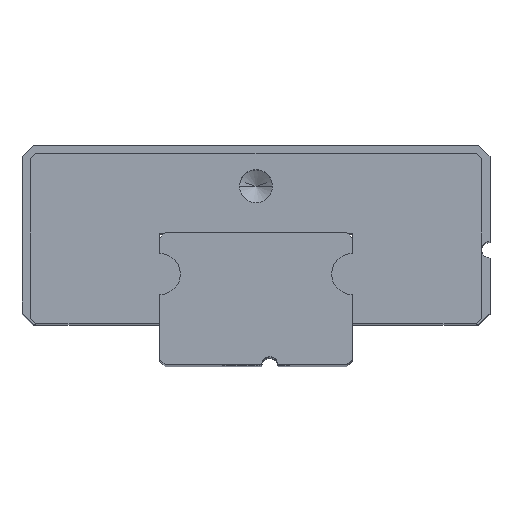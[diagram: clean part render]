
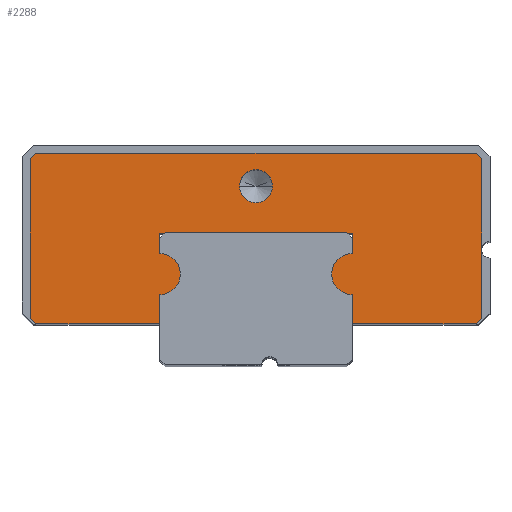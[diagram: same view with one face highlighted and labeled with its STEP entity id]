
A CAD part, top view. The second image highlights one B-rep face of the part: STEP entity #2288.
In plain terms, the highlighted planar face has unit normal (0, 0, 1).
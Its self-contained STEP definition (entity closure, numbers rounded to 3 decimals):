
#1339=CARTESIAN_POINT('',(3.5,3.3,15.4));
#1340=DIRECTION('',(0.,0.,-1.));
#1341=DIRECTION('',(0.,-1.,0.));
#1342=AXIS2_PLACEMENT_3D('',#1339,#1340,#1341);
#1344=CARTESIAN_POINT('',(3.5,3.3,15.4));
#1345=DIRECTION('',(0.,0.,-1.));
#1346=DIRECTION('',(-1.,0.,0.));
#1347=AXIS2_PLACEMENT_3D('',#1344,#1345,#1346);
#1349=CARTESIAN_POINT('',(-3.5,3.3,15.4));
#1350=DIRECTION('',(0.,0.,-1.));
#1351=DIRECTION('',(0.,1.,0.));
#1352=AXIS2_PLACEMENT_3D('',#1349,#1350,#1351);
#1354=CARTESIAN_POINT('',(-3.5,3.3,15.4));
#1355=DIRECTION('',(0.,0.,-1.));
#1356=DIRECTION('',(1.,0.,0.));
#1357=AXIS2_PLACEMENT_3D('',#1354,#1355,#1356);
#1359=DIRECTION('',(-1.,0.,0.));
#1360=VECTOR('',#1359,4.5);
#1361=CARTESIAN_POINT('',(-3.5,1.5,15.4));
#1362=LINE('',#1361,#1360);
#1363=DIRECTION('',(-0.707,0.707,0.));
#1364=VECTOR('',#1363,0.283);
#1365=CARTESIAN_POINT('',(-8.,1.5,15.4));
#1366=LINE('',#1365,#1364);
#1367=DIRECTION('',(0.,1.,0.));
#1368=VECTOR('',#1367,5.8);
#1369=CARTESIAN_POINT('',(-8.2,1.7,15.4));
#1370=LINE('',#1369,#1368);
#1371=DIRECTION('',(0.707,0.707,0.));
#1372=VECTOR('',#1371,0.283);
#1373=CARTESIAN_POINT('',(-8.2,7.5,15.4));
#1374=LINE('',#1373,#1372);
#1375=DIRECTION('',(1.,0.,0.));
#1376=VECTOR('',#1375,16.);
#1377=CARTESIAN_POINT('',(-8.,7.7,15.4));
#1378=LINE('',#1377,#1376);
#1379=DIRECTION('',(0.707,-0.707,0.));
#1380=VECTOR('',#1379,0.283);
#1381=CARTESIAN_POINT('',(8.,7.7,15.4));
#1382=LINE('',#1381,#1380);
#1383=DIRECTION('',(-0.707,-0.707,0.));
#1384=VECTOR('',#1383,0.283);
#1385=CARTESIAN_POINT('',(8.2,1.7,15.4));
#1386=LINE('',#1385,#1384);
#1387=DIRECTION('',(-1.,0.,0.));
#1388=VECTOR('',#1387,4.5);
#1389=CARTESIAN_POINT('',(8.,1.5,15.4));
#1390=LINE('',#1389,#1388);
#1391=CARTESIAN_POINT('',(0.,6.5,15.4));
#1392=DIRECTION('',(0.,0.,1.));
#1393=DIRECTION('',(1.,0.,0.));
#1394=AXIS2_PLACEMENT_3D('',#1391,#1392,#1393);
#1396=CARTESIAN_POINT('',(0.,6.5,15.4));
#1397=DIRECTION('',(0.,0.,1.));
#1398=DIRECTION('',(-1.,0.,0.));
#1399=AXIS2_PLACEMENT_3D('',#1396,#1397,#1398);
#1499=DIRECTION('',(0.,1.,0.));
#1500=VECTOR('',#1499,1.05);
#1501=CARTESIAN_POINT('',(-3.5,1.5,15.4));
#1502=LINE('',#1501,#1500);
#1742=DIRECTION('',(0.,-1.,0.));
#1743=VECTOR('',#1742,1.05);
#1744=CARTESIAN_POINT('',(3.5,2.55,15.4));
#1745=LINE('',#1744,#1743);
#1758=DIRECTION('',(0.,1.,0.));
#1759=VECTOR('',#1758,5.8);
#1760=CARTESIAN_POINT('',(8.2,1.7,15.4));
#1761=LINE('',#1760,#1759);
#1951=DIRECTION('',(0.,1.,0.));
#1952=VECTOR('',#1951,0.75);
#1953=CARTESIAN_POINT('',(-3.5,4.05,15.4));
#1954=LINE('',#1953,#1952);
#1959=DIRECTION('',(1.,0.,0.));
#1960=VECTOR('',#1959,7.);
#1961=CARTESIAN_POINT('',(-3.5,4.8,15.4));
#1962=LINE('',#1961,#1960);
#1967=DIRECTION('',(0.,-1.,0.));
#1968=VECTOR('',#1967,0.75);
#1969=CARTESIAN_POINT('',(3.5,4.8,15.4));
#1970=LINE('',#1969,#1968);
#2023=CARTESIAN_POINT('',(-3.5,4.05,15.4));
#2024=CARTESIAN_POINT('',(-2.75,3.3,15.4));
#2025=VERTEX_POINT('',#2023);
#2026=VERTEX_POINT('',#2024);
#2027=CARTESIAN_POINT('',(-3.5,2.55,15.4));
#2028=VERTEX_POINT('',#2027);
#2029=CARTESIAN_POINT('',(-3.5,1.5,15.4));
#2030=VERTEX_POINT('',#2029);
#2031=CARTESIAN_POINT('',(-8.,1.5,15.4));
#2032=VERTEX_POINT('',#2031);
#2033=CARTESIAN_POINT('',(-8.2,1.7,15.4));
#2034=VERTEX_POINT('',#2033);
#2035=CARTESIAN_POINT('',(-8.2,7.5,15.4));
#2036=VERTEX_POINT('',#2035);
#2037=CARTESIAN_POINT('',(-8.,7.7,15.4));
#2038=VERTEX_POINT('',#2037);
#2039=CARTESIAN_POINT('',(8.,7.7,15.4));
#2040=VERTEX_POINT('',#2039);
#2041=CARTESIAN_POINT('',(8.2,7.5,15.4));
#2042=VERTEX_POINT('',#2041);
#2043=CARTESIAN_POINT('',(8.2,1.7,15.4));
#2044=VERTEX_POINT('',#2043);
#2045=CARTESIAN_POINT('',(8.,1.5,15.4));
#2046=VERTEX_POINT('',#2045);
#2047=CARTESIAN_POINT('',(3.5,1.5,15.4));
#2048=VERTEX_POINT('',#2047);
#2049=CARTESIAN_POINT('',(3.5,2.55,15.4));
#2050=VERTEX_POINT('',#2049);
#2051=CARTESIAN_POINT('',(2.75,3.3,15.4));
#2052=VERTEX_POINT('',#2051);
#2053=CARTESIAN_POINT('',(3.5,4.05,15.4));
#2054=VERTEX_POINT('',#2053);
#2055=CARTESIAN_POINT('',(3.5,4.8,15.4));
#2056=VERTEX_POINT('',#2055);
#2057=CARTESIAN_POINT('',(-3.5,4.8,15.4));
#2058=VERTEX_POINT('',#2057);
#2059=CARTESIAN_POINT('',(0.6,6.5,15.4));
#2060=CARTESIAN_POINT('',(-0.6,6.5,15.4));
#2061=VERTEX_POINT('',#2059);
#2062=VERTEX_POINT('',#2060);
#2239=CARTESIAN_POINT('',(8.5,4.2,15.4));
#2240=DIRECTION('',(0.,0.,1.));
#2241=DIRECTION('',(1.,0.,0.));
#2242=AXIS2_PLACEMENT_3D('',#2239,#2240,#2241);
#2243=PLANE('',#2242);
#2245=ORIENTED_EDGE('',*,*,#2244,.T.);
#2247=ORIENTED_EDGE('',*,*,#2246,.T.);
#2249=ORIENTED_EDGE('',*,*,#2248,.F.);
#2251=ORIENTED_EDGE('',*,*,#2250,.F.);
#2253=ORIENTED_EDGE('',*,*,#2252,.F.);
#2255=ORIENTED_EDGE('',*,*,#2254,.T.);
#2257=ORIENTED_EDGE('',*,*,#2256,.T.);
#2259=ORIENTED_EDGE('',*,*,#2258,.F.);
#2261=ORIENTED_EDGE('',*,*,#2260,.T.);
#2263=ORIENTED_EDGE('',*,*,#2262,.T.);
#2265=ORIENTED_EDGE('',*,*,#2264,.T.);
#2267=ORIENTED_EDGE('',*,*,#2266,.T.);
#2269=ORIENTED_EDGE('',*,*,#2268,.T.);
#2271=ORIENTED_EDGE('',*,*,#2270,.T.);
#2273=ORIENTED_EDGE('',*,*,#2272,.F.);
#2275=ORIENTED_EDGE('',*,*,#2274,.T.);
#2277=ORIENTED_EDGE('',*,*,#2276,.T.);
#2279=ORIENTED_EDGE('',*,*,#2278,.F.);
#2280=EDGE_LOOP('',(#2245,#2247,#2249,#2251,#2253,#2255,#2257,#2259,#2261,#2263,
#2265,#2267,#2269,#2271,#2273,#2275,#2277,#2279));
#2281=FACE_OUTER_BOUND('',#2280,.F.);
#2283=ORIENTED_EDGE('',*,*,#2282,.T.);
#2285=ORIENTED_EDGE('',*,*,#2284,.T.);
#2286=EDGE_LOOP('',(#2283,#2285));
#2287=FACE_BOUND('',#2286,.F.);
#2288=ADVANCED_FACE('',(#2281,#2287),#2243,.T.);
#1343=CIRCLE('',#1342,0.75);
#1348=CIRCLE('',#1347,0.75);
#1353=CIRCLE('',#1352,0.75);
#1358=CIRCLE('',#1357,0.75);
#1395=CIRCLE('',#1394,0.6);
#1400=CIRCLE('',#1399,0.6);
#2244=EDGE_CURVE('',#2050,#2052,#1343,.T.);
#2246=EDGE_CURVE('',#2052,#2054,#1348,.T.);
#2248=EDGE_CURVE('',#2056,#2054,#1970,.T.);
#2250=EDGE_CURVE('',#2058,#2056,#1962,.T.);
#2252=EDGE_CURVE('',#2025,#2058,#1954,.T.);
#2254=EDGE_CURVE('',#2025,#2026,#1353,.T.);
#2256=EDGE_CURVE('',#2026,#2028,#1358,.T.);
#2258=EDGE_CURVE('',#2030,#2028,#1502,.T.);
#2260=EDGE_CURVE('',#2030,#2032,#1362,.T.);
#2262=EDGE_CURVE('',#2032,#2034,#1366,.T.);
#2264=EDGE_CURVE('',#2034,#2036,#1370,.T.);
#2266=EDGE_CURVE('',#2036,#2038,#1374,.T.);
#2268=EDGE_CURVE('',#2038,#2040,#1378,.T.);
#2270=EDGE_CURVE('',#2040,#2042,#1382,.T.);
#2272=EDGE_CURVE('',#2044,#2042,#1761,.T.);
#2274=EDGE_CURVE('',#2044,#2046,#1386,.T.);
#2276=EDGE_CURVE('',#2046,#2048,#1390,.T.);
#2278=EDGE_CURVE('',#2050,#2048,#1745,.T.);
#2282=EDGE_CURVE('',#2061,#2062,#1395,.T.);
#2284=EDGE_CURVE('',#2062,#2061,#1400,.T.);
